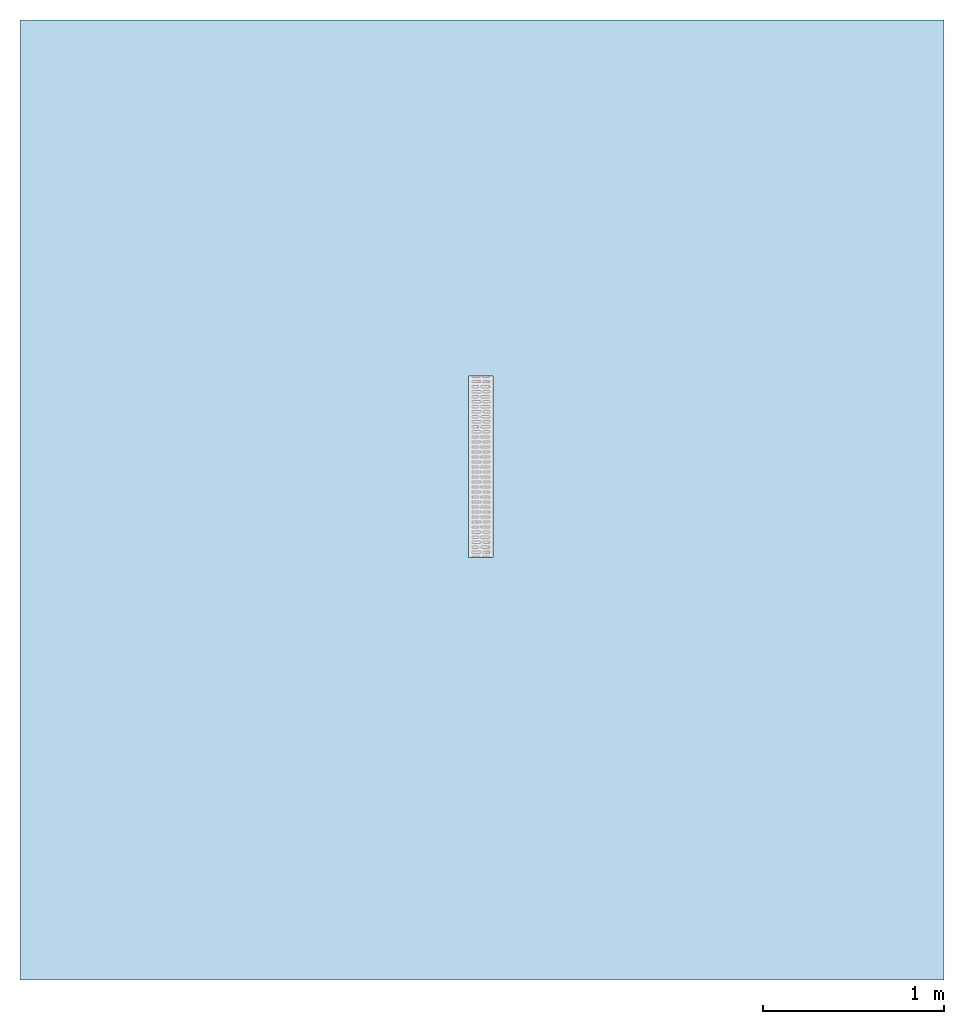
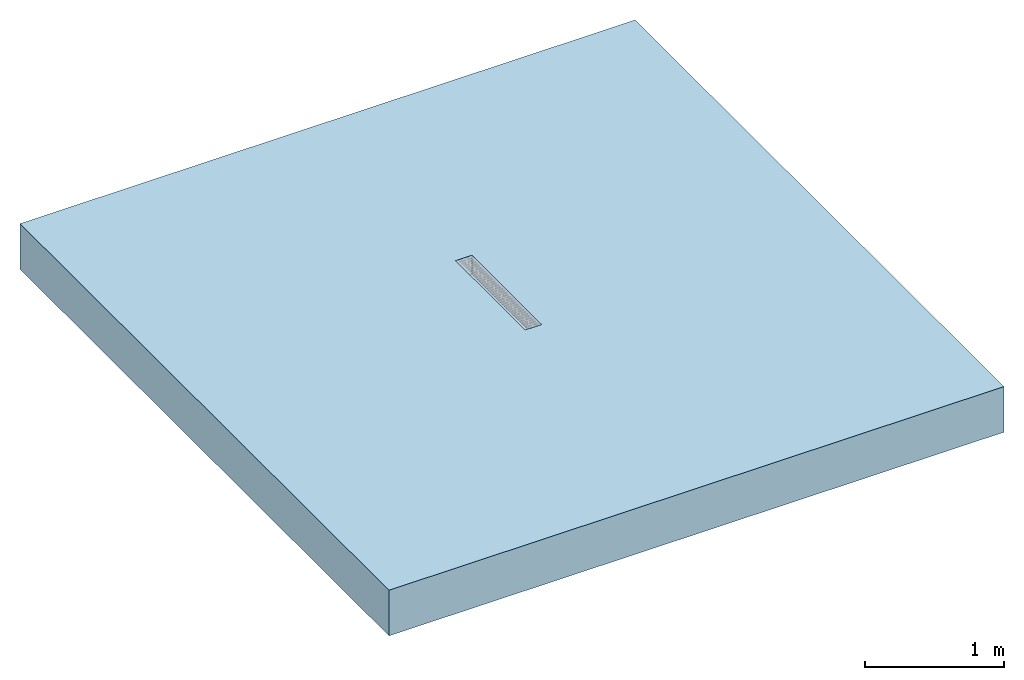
# One storey, incomplete: 1 slab, 1 opening.
"""IFC2X3 building model written with IfcOpenShell, lengths in millimetres."""

from ifc_helpers import new_model, entity, si_unit, converted_unit, direction, frame, frame_2d, origin, origin_2d_with_axis, place, context, subcontext, project, spatial, rectangle, extrude, material, layer, layer_set, layer_usage, element, save


model = new_model("IFC2X3")

# Units and contexts
model_context = context("Model", 3, precision=1e-06, world=origin(), true_north=direction((2.0, 6.12303176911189e-17, 1.0)))
context_of_model = context(None, 3, precision=1e-06, world=origin(), true_north=direction((2.0, 6.12303176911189e-17, 1.0)))
body_context = subcontext(model_context, "Body", "Model", "MODEL_VIEW")
ifc_project = project(units=[si_unit("LENGTHUNIT", "METRE", prefix="MILLI"), si_unit("AREAUNIT", "SQUARE_METRE", prefix="MILLI"), si_unit("VOLUMEUNIT", "CUBIC_METRE", prefix="MILLI"), converted_unit("PLANEANGLEUNIT", "DEGREE", entity("IfcRatioMeasure", 0.0174532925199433), si_unit("PLANEANGLEUNIT", "RADIAN"), dimensions=[0, 0, 0, 0, 0, 0, 0]), si_unit("TIMEUNIT", "SECOND")], contexts=[model_context, context_of_model])

# Site, building, storey
site_placement = place(None, origin())
site = spatial("IfcSite", under=ifc_project, at=site_placement, Name="Default", CompositionType="ELEMENT")
building_placement = place(site_placement, origin())
building = spatial("IfcBuilding", under=site, at=building_placement, CompositionType="ELEMENT")
storey_placement = place(building_placement, origin())
storey = spatial("IfcBuildingStorey", under=building, at=storey_placement, Name="Level 1", CompositionType="ELEMENT", Elevation=0.0)

# Slab, opening
ifc_material = material(Name="Plant")
ifc_layer = layer(ifc_material, 400.0)
ifc_layer_set = layer_set([ifc_layer], Name="Floor:Generic Floor - 400mm")
ifc_layer_usage = layer_usage(ifc_layer_set, "AXIS3", "POSITIVE", 0.0)
slab_placement = place(storey_placement, frame((-4647.86261836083, 721.458014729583, -400.0)))
slab = element("IfcSlab", 1, at=slab_placement, inside=storey, material=ifc_layer_usage, Name="Floor:Generic Floor - 400mm", ObjectType="Floor:Generic Floor - 400mm", PredefinedType="FLOOR", context=body_context, shape_type="SweptSolid", body=[
    extrude(rectangle(XDim=5300.0, YDim=5100.0, at=frame_2d((0.0, 0.0), x_axis=(0.0, -1.0))), frame((2550.0, 2650.0, 400.0), z_axis=(0.0, 0.0, -1.0), x_axis=(-1.0, 0.0, 0.0)), (0.0, 0.0, 1.0), 400.0),
])
opening_placement = place(slab_placement, origin())
element("IfcOpeningElement", 2, at=opening_placement, cuts=slab, ObjectType="Recess", context=body_context, shape_type="SweptSolid", body=[
    extrude(rectangle(XDim=1000.0, YDim=135.0, at=origin_2d_with_axis()), frame((2544.68201524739, 2833.67683880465, 235.0), z_axis=(0.0, 0.0, 1.0), x_axis=(0.0, 1.0, 0.0)), (0.0, 0.0, 1.0), 164.999999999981),
])

save(model, "model.ifc")
